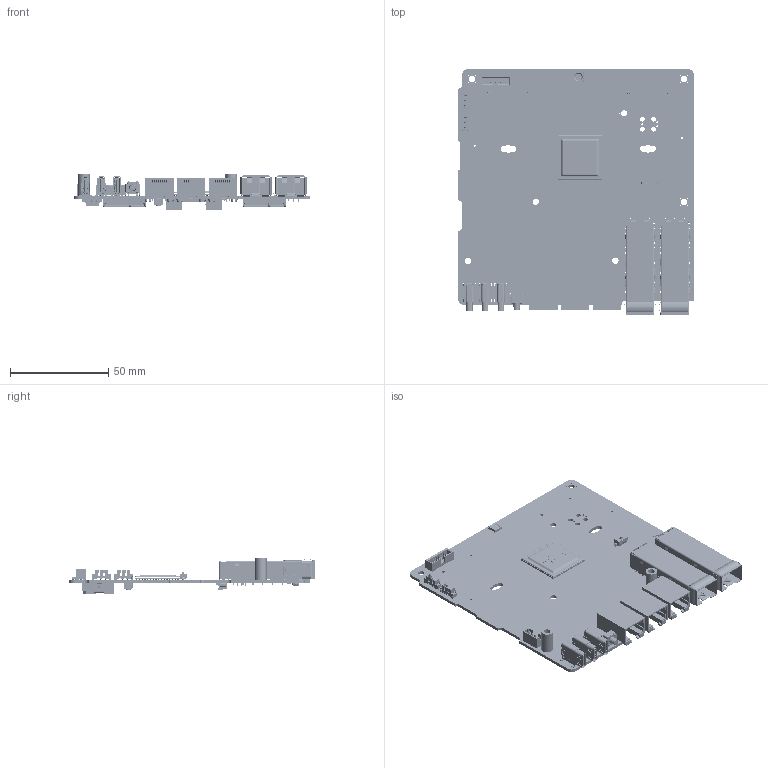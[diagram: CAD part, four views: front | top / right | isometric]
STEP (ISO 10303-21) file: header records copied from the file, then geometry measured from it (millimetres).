
FILE_DESCRIPTION(/* description */ ('PCB 10Gbit Development Kit (DEV_KIT_variant) Ver A3'),/* implementation_level */ '2;1');
FILE_NAME(/* name */ 'MTUR_Main_Board_A3_(DEV_KIT_VAR)_SIMPLE.step',/* time_stamp */ '2026-09-09T12:00:59+02:00',/* author */ (''),/* organization */ (''),/* preprocessor_version */ 'ST-DEVELOPER v20.1',/* originating_system */ 'Autodesk Translation Framework v15.8.0.0',/* authorisation */ '');
FILE_SCHEMA (('AUTOMOTIVE_DESIGN { 1 0 10303 214 3 1 1 }'));
Products named in the file (18): 2026-09-09-11-55-54-428; 2025-10-07-15-30-00-902; 2025-10-07-15-28-17-569; 2025-10-07-15-29-13-305; 2025-10-07-15-28-07-918; 2025-10-07-15-28-50-932; 2025-10-07-15-29-24-216; 2025-10-07-15-28-27-721; 2025-10-07-15-28-21-978; 2025-10-07-15-28-43-047; 2025-10-07-15-29-06-168; 2025-10-07-15-28-54-748; 2025-10-07-15-28-48-973; 2025-10-07-15-28-54-500; 2025-10-07-15-28-50-135; 2025-10-07-15-28-58-209; 2025-10-07-15-28-06-648; 2025-10-07-15-28-19-350
Assembly tree (24 placements, depth 2):
  2026-09-09-11-55-54-428
    2025-10-07-15-30-00-902
    2025-10-07-15-28-17-569
    2025-10-07-15-29-13-305
    2025-10-07-15-28-07-918
    2025-10-07-15-28-50-932
    2025-10-07-15-29-24-216
    2025-10-07-15-28-27-721
    2025-10-07-15-28-54-500  x2
    2025-10-07-15-28-21-978
    2025-10-07-15-28-43-047
    2025-10-07-15-29-06-168
    2025-10-07-15-28-54-748
    2025-10-07-15-28-48-973
    2025-10-07-15-28-50-135  x3
    2025-10-07-15-28-58-209  x2
    2025-10-07-15-28-06-648  x2
    2025-10-07-15-28-19-350  x3
Bounding box: 120 x 125 x 18.24 mm (x, y, z)
Volume: 34077.3 mm3; surface area: 58999 mm2
Topology: 873 solids, 966 shells, 16956 faces, 46734 edges, 30497 vertices
Faces by surface type: plane 12510, cylinder 3394, sphere 794, bspline 118, cone 92, torus 48
Full cylindrical faces by diameter (mm): 0.3 x40, 0.5 x72, 0.57 x1, 0.6 x3, 0.75 x4, 0.8 x9, 0.85 x6, 0.89 x24, 0.95 x18, 1 x19, 1.05 x20, 1.15 x2, 1.2 x3, 1.3 x6, 1.4 x4, 1.45 x2, 1.55 x4, 1.65 x2, 1.9 x5, 2.375 x4, 2.5 x1, 2.7 x1, 3 x1, 3.175 x5, 3.25 x6, 3.3 x2, 3.55 x1, 4.2 x2, 4.4 x2, 6 x2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
Entity records: 343850 total; most frequent: CARTESIAN_POINT 69729, ORIENTED_EDGE 54378, DIRECTION 52554, EDGE_CURVE 27189, LINE 22062, VECTOR 22062, VERTEX_POINT 18870, AXIS2_PLACEMENT_3D 15246
